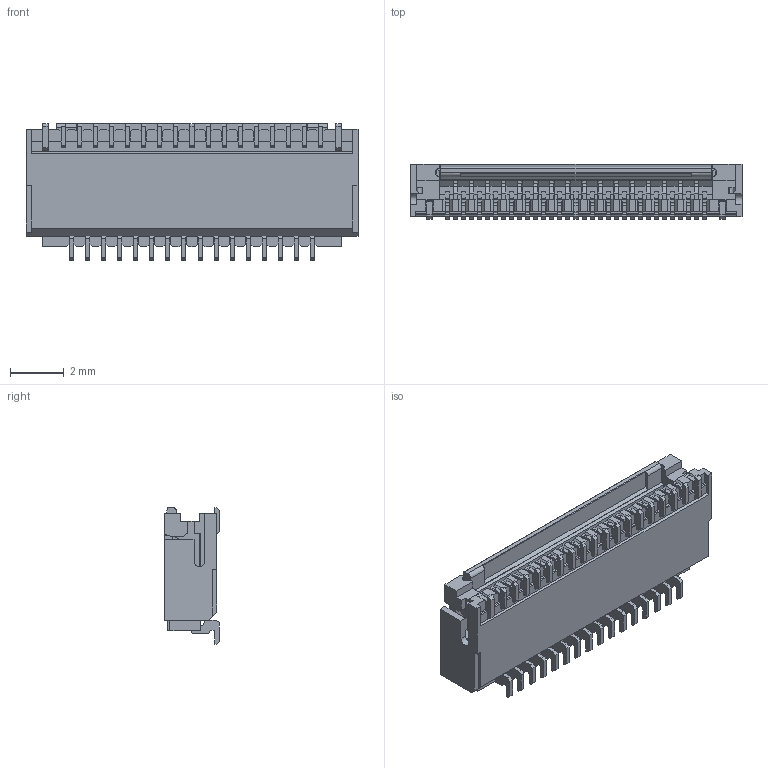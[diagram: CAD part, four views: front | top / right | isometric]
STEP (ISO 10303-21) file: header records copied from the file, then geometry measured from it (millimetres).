
FILE_DESCRIPTION((''),'2;1');
FILE_NAME('543933381','2008-12-02T',('gga'),(''),'PRO/ENGINEER BY PARAMETRIC TECHNOLOGY CORPORATION, 2003451','PRO/ENGINEER BY PARAMETRIC TECHNOLOGY CORPORATION, 2003451','');
FILE_SCHEMA(('CONFIG_CONTROL_DESIGN'));
Length unit declared in the file: millimetre
Products named in the file (1): 543933381
Bounding box: 12.4 x 2.05 x 5.1 mm (x, y, z)
Volume: 59.7 mm3; surface area: 485.4 mm2
Topology: 1 solids, 1 shells, 1629 faces, 5107 edges, 3418 vertices
Faces by surface type: plane 1468, cylinder 159, bspline 2
Entity records: 55685 total; most frequent: CARTESIAN_POINT 10113, ORIENTED_EDGE 9926, DIRECTION 8691, EDGE_CURVE 4963, VECTOR 4767, LINE 4767, VERTEX_POINT 3270, AXIS2_PLACEMENT_3D 1962
